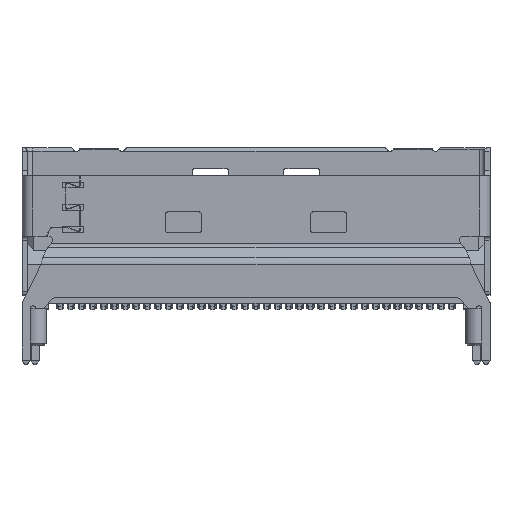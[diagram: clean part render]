
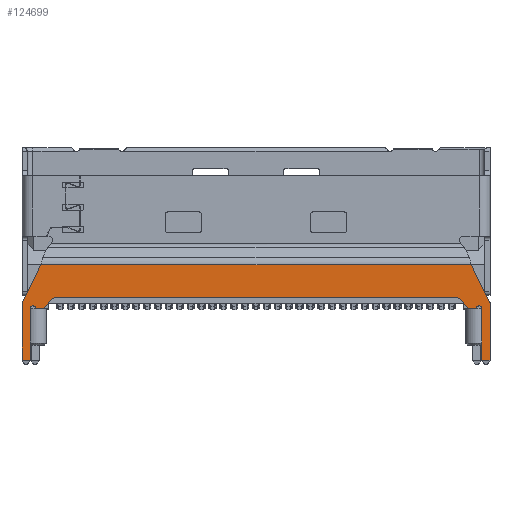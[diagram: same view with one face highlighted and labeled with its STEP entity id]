
A CAD part, top view. The second image highlights one B-rep face of the part: STEP entity #124699.
In plain terms, the highlighted planar face has unit normal (0, 0, 1).
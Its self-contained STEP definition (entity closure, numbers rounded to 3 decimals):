
#2596=DIRECTION('',(-1.,0.,0.));
#2597=VECTOR('',#2596,0.45);
#2598=CARTESIAN_POINT('',(-12.45,-4.48,2.3));
#2599=LINE('',#2598,#2597);
#2634=DIRECTION('',(0.,-1.,0.));
#2635=VECTOR('',#2634,3.14);
#2636=CARTESIAN_POINT('',(-12.9,-1.34,2.3));
#2637=LINE('',#2636,#2635);
#27380=DIRECTION('',(-1.,0.,0.));
#27381=VECTOR('',#27380,23.723);
#27382=CARTESIAN_POINT('',(11.861,0.771,
2.3));
#27383=LINE('',#27382,#27381);
#27395=DIRECTION('',(1.,0.,0.));
#27396=VECTOR('',#27395,0.45);
#27397=CARTESIAN_POINT('',(12.45,-4.48,2.3));
#27398=LINE('',#27397,#27396);
#27399=DIRECTION('',(0.,-1.,0.));
#27400=VECTOR('',#27399,2.845);
#27401=CARTESIAN_POINT('',(12.45,-1.635,2.3));
#27402=LINE('',#27401,#27400);
#27403=CARTESIAN_POINT('',(12.3,-1.635,2.3));
#27404=DIRECTION('',(0.,0.,-1.));
#27405=DIRECTION('',(-0.893,0.45,0.));
#27406=AXIS2_PLACEMENT_3D('',#27403,#27404,#27405);
#27408=CARTESIAN_POINT('',(12.032,-1.5,2.3));
#27409=DIRECTION('',(0.,0.,1.));
#27410=DIRECTION('',(0.,-1.,0.));
#27411=AXIS2_PLACEMENT_3D('',#27408,#27409,#27410);
#27413=DIRECTION('',(1.,0.,0.));
#27414=VECTOR('',#27413,0.166);
#27415=CARTESIAN_POINT('',(11.866,-1.65,2.3));
#27416=LINE('',#27415,#27414);
#27417=CARTESIAN_POINT('',(11.866,-1.35,2.3));
#27418=DIRECTION('',(0.,0.,1.));
#27419=DIRECTION('',(-0.719,-0.695,0.));
#27420=AXIS2_PLACEMENT_3D('',#27417,#27418,#27419);
#27422=DIRECTION('',(0.695,-0.719,0.));
#27423=VECTOR('',#27422,0.649);
#27424=CARTESIAN_POINT('',(11.199,-1.092,2.3));
#27425=LINE('',#27424,#27423);
#27426=CARTESIAN_POINT('',(10.983,-1.3,2.3));
#27427=DIRECTION('',(0.,0.,-1.));
#27428=DIRECTION('',(0.,1.,0.));
#27429=AXIS2_PLACEMENT_3D('',#27426,#27427,#27428);
#27431=CARTESIAN_POINT('',(-10.983,-1.3,2.3));
#27432=DIRECTION('',(0.,0.,-1.));
#27433=DIRECTION('',(-0.719,0.695,0.));
#27434=AXIS2_PLACEMENT_3D('',#27431,#27432,#27433);
#27436=DIRECTION('',(0.695,0.719,0.));
#27437=VECTOR('',#27436,0.649);
#27438=CARTESIAN_POINT('',(-11.65,-1.558,2.3));
#27439=LINE('',#27438,#27437);
#27440=CARTESIAN_POINT('',(-11.866,-1.35,2.3));
#27441=DIRECTION('',(0.,0.,1.));
#27442=DIRECTION('',(0.,-1.,0.));
#27443=AXIS2_PLACEMENT_3D('',#27440,#27441,#27442);
#27445=CARTESIAN_POINT('',(-12.032,-1.5,2.3));
#27446=DIRECTION('',(0.,0.,1.));
#27447=DIRECTION('',(-0.893,-0.45,0.));
#27448=AXIS2_PLACEMENT_3D('',#27445,#27446,#27447);
#27450=CARTESIAN_POINT('',(-12.3,-1.635,2.3));
#27451=DIRECTION('',(0.,0.,-1.));
#27452=DIRECTION('',(-1.,0.,0.));
#27453=AXIS2_PLACEMENT_3D('',#27450,#27451,#27452);
#27455=DIRECTION('',(-0.442,-0.897,0.));
#27456=VECTOR('',#27455,2.353);
#27457=CARTESIAN_POINT('',(-11.861,0.771,
2.3));
#27458=LINE('',#27457,#27456);
#27459=DIRECTION('',(-0.442,0.897,0.));
#27460=VECTOR('',#27459,2.353);
#27461=CARTESIAN_POINT('',(12.9,-1.34,2.3));
#27462=LINE('',#27461,#27460);
#27484=DIRECTION('',(1.,0.,0.));
#27485=VECTOR('',#27484,21.967);
#27486=CARTESIAN_POINT('',(-10.983,-1.,2.3));
#27487=LINE('',#27486,#27485);
#27556=DIRECTION('',(1.,0.,0.));
#27557=VECTOR('',#27556,0.166);
#27558=CARTESIAN_POINT('',(-12.032,-1.65,2.3));
#27559=LINE('',#27558,#27557);
#27560=DIRECTION('',(0.,-1.,0.));
#27561=VECTOR('',#27560,2.845);
#27562=CARTESIAN_POINT('',(-12.45,-1.635,2.3));
#27563=LINE('',#27562,#27561);
#27576=DIRECTION('',(0.,-1.,0.));
#27577=VECTOR('',#27576,3.14);
#27578=CARTESIAN_POINT('',(12.9,-1.34,2.3));
#27579=LINE('',#27578,#27577);
#56853=CARTESIAN_POINT('',(12.9,-4.48,2.3));
#56854=VERTEX_POINT('',#56853);
#56858=CARTESIAN_POINT('',(12.45,-4.48,2.3));
#56859=VERTEX_POINT('',#56858);
#56864=CARTESIAN_POINT('',(-12.45,-4.48,2.3));
#56865=VERTEX_POINT('',#56864);
#56878=CARTESIAN_POINT('',(-12.9,-4.48,2.3));
#56879=VERTEX_POINT('',#56878);
#57383=CARTESIAN_POINT('',(11.861,0.771,
2.3));
#57385=VERTEX_POINT('',#57383);
#57407=CARTESIAN_POINT('',(12.45,-1.635,2.3));
#57408=VERTEX_POINT('',#57407);
#57409=CARTESIAN_POINT('',(12.166,-1.567,2.3));
#57411=VERTEX_POINT('',#57409);
#57414=CARTESIAN_POINT('',(12.032,-1.65,2.3));
#57416=VERTEX_POINT('',#57414);
#57419=CARTESIAN_POINT('',(11.866,-1.65,2.3));
#57420=VERTEX_POINT('',#57419);
#57423=CARTESIAN_POINT('',(11.65,-1.558,2.3));
#57424=VERTEX_POINT('',#57423);
#57427=CARTESIAN_POINT('',(11.199,-1.092,2.3));
#57428=VERTEX_POINT('',#57427);
#57447=CARTESIAN_POINT('',(-11.65,-1.558,2.3));
#57448=VERTEX_POINT('',#57447);
#57449=CARTESIAN_POINT('',(-11.866,-1.65,2.3));
#57450=VERTEX_POINT('',#57449);
#57451=CARTESIAN_POINT('',(-11.199,-1.092,2.3));
#57452=VERTEX_POINT('',#57451);
#57453=CARTESIAN_POINT('',(10.983,-1.,2.3));
#57454=VERTEX_POINT('',#57453);
#57455=CARTESIAN_POINT('',(-10.983,-1.,2.3));
#57456=VERTEX_POINT('',#57455);
#57457=CARTESIAN_POINT('',(-12.032,-1.65,2.3));
#57458=VERTEX_POINT('',#57457);
#57459=CARTESIAN_POINT('',(-12.166,-1.567,2.3));
#57460=VERTEX_POINT('',#57459);
#57461=CARTESIAN_POINT('',(-12.45,-1.635,2.3));
#57462=VERTEX_POINT('',#57461);
#57463=CARTESIAN_POINT('',(-12.9,-1.34,2.3));
#57464=VERTEX_POINT('',#57463);
#57465=CARTESIAN_POINT('',(-11.861,0.771,
2.3));
#57466=VERTEX_POINT('',#57465);
#57467=CARTESIAN_POINT('',(12.9,-1.34,2.3));
#57468=VERTEX_POINT('',#57467);
#124659=CARTESIAN_POINT('',(0.,-1.855,2.3));
#124660=DIRECTION('',(0.,0.,1.));
#124661=DIRECTION('',(0.,-1.,0.));
#124662=AXIS2_PLACEMENT_3D('',#124659,#124660,#124661);
#124663=PLANE('',#124662);
#124664=ORIENTED_EDGE('',*,*,#73942,.F.);
#124665=ORIENTED_EDGE('',*,*,#74024,.F.);
#124666=ORIENTED_EDGE('',*,*,#74043,.F.);
#124667=ORIENTED_EDGE('',*,*,#74066,.F.);
#124668=ORIENTED_EDGE('',*,*,#74090,.F.);
#124669=ORIENTED_EDGE('',*,*,#74153,.F.);
#124670=ORIENTED_EDGE('',*,*,#74175,.F.);
#124672=ORIENTED_EDGE('',*,*,#124671,.F.);
#124674=ORIENTED_EDGE('',*,*,#124673,.F.);
#124676=ORIENTED_EDGE('',*,*,#124675,.F.);
#124678=ORIENTED_EDGE('',*,*,#124677,.F.);
#124680=ORIENTED_EDGE('',*,*,#124679,.F.);
#124682=ORIENTED_EDGE('',*,*,#124681,.F.);
#124684=ORIENTED_EDGE('',*,*,#124683,.F.);
#124686=ORIENTED_EDGE('',*,*,#124685,.F.);
#124688=ORIENTED_EDGE('',*,*,#124687,.T.);
#124689=ORIENTED_EDGE('',*,*,#74410,.T.);
#124690=ORIENTED_EDGE('',*,*,#74492,.F.);
#124691=ORIENTED_EDGE('',*,*,#74513,.F.);
#124692=ORIENTED_EDGE('',*,*,#124645,.F.);
#124694=ORIENTED_EDGE('',*,*,#124693,.F.);
#124696=ORIENTED_EDGE('',*,*,#124695,.T.);
#124697=EDGE_LOOP('',(#124664,#124665,#124666,#124667,#124668,#124669,#124670,
#124672,#124674,#124676,#124678,#124680,#124682,#124684,#124686,#124688,#124689,
#124690,#124691,#124692,#124694,#124696));
#124698=FACE_OUTER_BOUND('',#124697,.F.);
#27407=CIRCLE('',#27406,0.15);
#27412=CIRCLE('',#27411,0.15);
#27421=CIRCLE('',#27420,0.3);
#27430=CIRCLE('',#27429,0.3);
#27435=CIRCLE('',#27434,0.3);
#27444=CIRCLE('',#27443,0.3);
#27449=CIRCLE('',#27448,0.15);
#27454=CIRCLE('',#27453,0.15);
#73942=EDGE_CURVE('',#56859,#56854,#27398,.T.);
#74024=EDGE_CURVE('',#57408,#56859,#27402,.T.);
#74043=EDGE_CURVE('',#57411,#57408,#27407,.T.);
#74066=EDGE_CURVE('',#57416,#57411,#27412,.T.);
#74090=EDGE_CURVE('',#57420,#57416,#27416,.T.);
#74153=EDGE_CURVE('',#57424,#57420,#27421,.T.);
#74175=EDGE_CURVE('',#57428,#57424,#27425,.T.);
#74410=EDGE_CURVE('',#56865,#56879,#2599,.T.);
#74492=EDGE_CURVE('',#57464,#56879,#2637,.T.);
#74513=EDGE_CURVE('',#57466,#57464,#27458,.T.);
#124645=EDGE_CURVE('',#57385,#57466,#27383,.T.);
#124671=EDGE_CURVE('',#57454,#57428,#27430,.T.);
#124673=EDGE_CURVE('',#57456,#57454,#27487,.T.);
#124675=EDGE_CURVE('',#57452,#57456,#27435,.T.);
#124677=EDGE_CURVE('',#57448,#57452,#27439,.T.);
#124679=EDGE_CURVE('',#57450,#57448,#27444,.T.);
#124681=EDGE_CURVE('',#57458,#57450,#27559,.T.);
#124683=EDGE_CURVE('',#57460,#57458,#27449,.T.);
#124685=EDGE_CURVE('',#57462,#57460,#27454,.T.);
#124687=EDGE_CURVE('',#57462,#56865,#27563,.T.);
#124693=EDGE_CURVE('',#57468,#57385,#27462,.T.);
#124695=EDGE_CURVE('',#57468,#56854,#27579,.T.);
#124699=ADVANCED_FACE('',(#124698),#124663,.T.);
